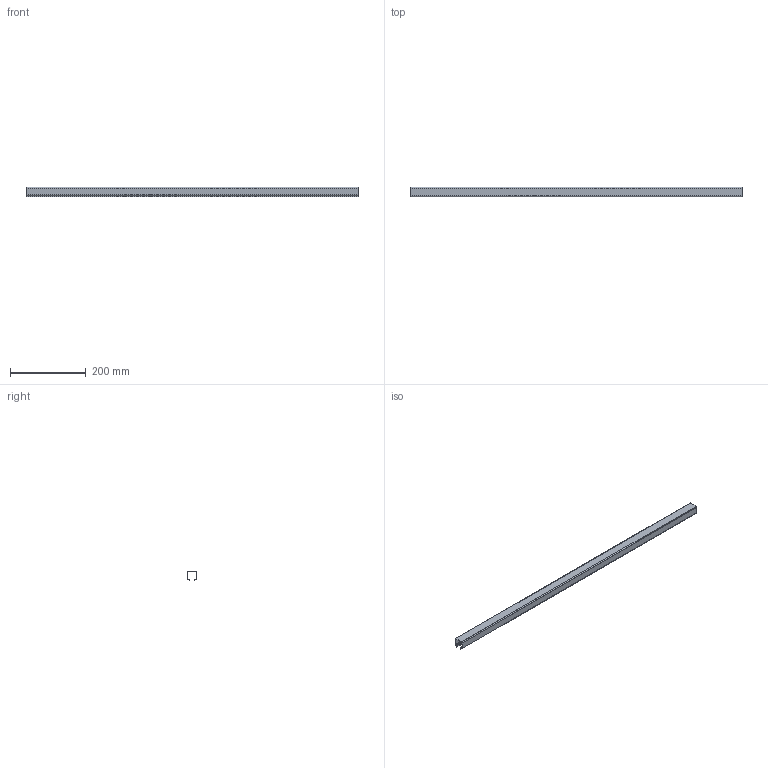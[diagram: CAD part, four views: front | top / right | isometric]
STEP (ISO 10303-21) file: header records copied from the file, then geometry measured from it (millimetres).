
FILE_DESCRIPTION( ( 'STEP AP214' ), '1' );
FILE_NAME( 'C:/Users/KOSH/Desktop/Same as task/Sliding folding/9120718.stp', '2021-07-01T11:29:16', ( '' ), ( '' ), ' ', 'PARTsolutions', ' ' );
FILE_SCHEMA( ( 'AUTOMOTIVE_DESIGN { 1 0 10303 214 1 1 1 1 }' ) );
Length unit declared in the file: millimetre
Products named in the file (1): _9120718
Bounding box: 874 x 26 x 25 mm (x, y, z)
Volume: 71325.4 mm3; surface area: 144561.9 mm2
Topology: 1 solids, 1 shells, 30 faces, 84 edges, 56 vertices
Faces by surface type: plane 18, cylinder 12
Entity records: 1228 total; most frequent: CARTESIAN_POINT 171, DIRECTION 170, ORIENTED_EDGE 168, EDGE_CURVE 84, LINE 60, VECTOR 60, VERTEX_POINT 56, AXIS2_PLACEMENT_3D 55
